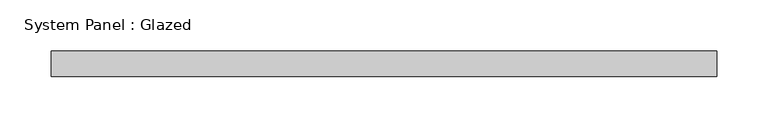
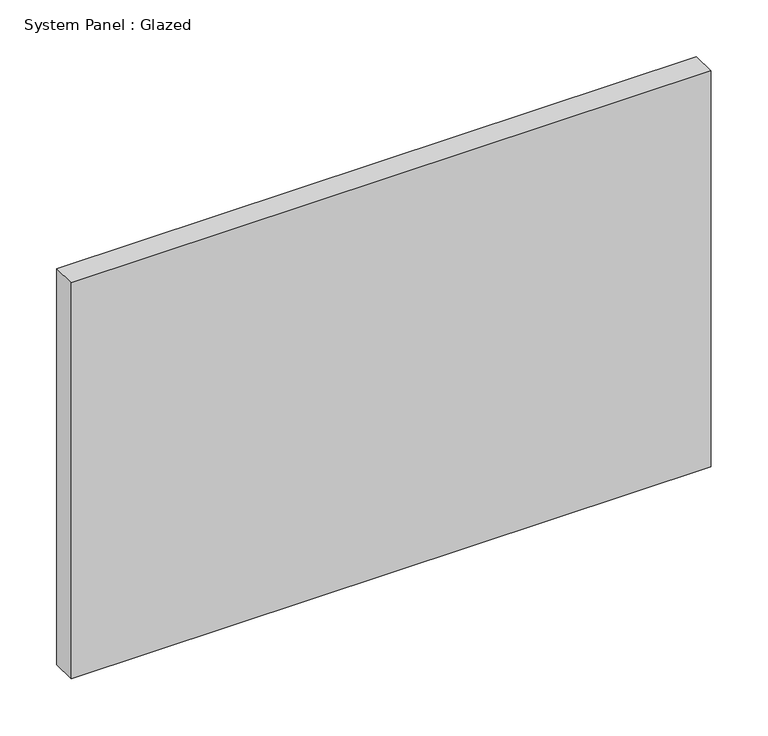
"""IFC4 building model written with IfcOpenShell, lengths in millimetres: plate geometry, System Panel : Glazed."""

from ifc_helpers import new_model, si_unit, origin, origin_with_axes, place, context, project, spatial, polyline, outline, extrude, source, transform, mapped, element, save


def system_panel_glazed_d9146cf5(model_context):
    return source(origin(), model_context, "Body", "SweptSolid", [
        extrude(outline(polyline([(325.0000001, -49.5), (-325.0000001, -49.5), (-325.0000001, -24.5), (325.0000001, -24.5), (325.0000001, -49.5)])), origin_with_axes(), (0.0, 0.0, 1.0), 425.0),
    ])


if __name__ == "__main__":
    model = new_model("IFC4")
    model_context = context("Model", 3, world=origin())
    ifc_project = project(units=[si_unit("LENGTHUNIT", "METRE", prefix="MILLI")], contexts=[model_context])
    site = spatial("IfcSite", under=ifc_project)
    building = spatial("IfcBuilding", under=site)
    placement = place(None, origin())
    system_panel_glazed_shape = system_panel_glazed_d9146cf5(model_context)
    element("IfcPlate", 1, ObjectType="System Panel : Glazed", at=placement, inside=building, context=model_context, shape_type="MappedRepresentation", body=[
        mapped(system_panel_glazed_shape, transform((0.0, 0.0, 0.0), x_axis=(1.0, 0.0, 0.0), y_axis=(0.0, 1.0, 0.0), z_axis=(0.0, 0.0, 1.0))),
    ])
    save(model, "model.ifc")
